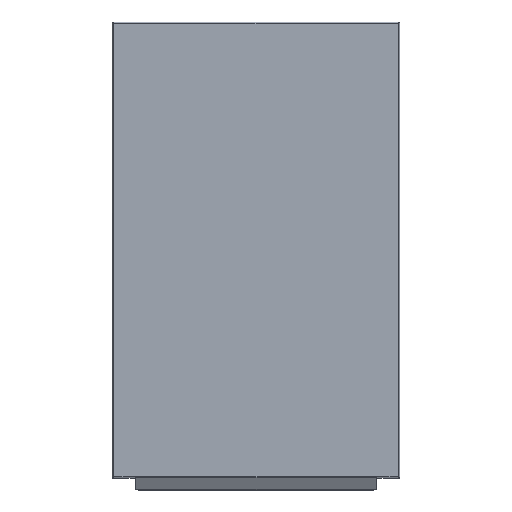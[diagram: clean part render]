
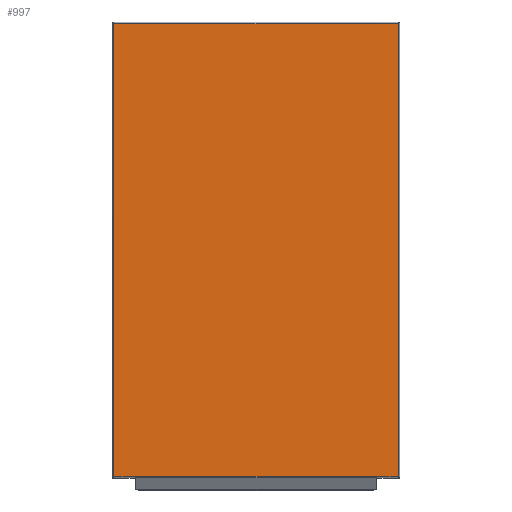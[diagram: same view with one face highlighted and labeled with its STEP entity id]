
A CAD part, top view. The second image highlights one B-rep face of the part: STEP entity #997.
In plain terms, the highlighted planar face has unit normal (0, 0, 1).
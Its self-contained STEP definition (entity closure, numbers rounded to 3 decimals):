
#47=PLANE('',#1093);
#101=FACE_OUTER_BOUND('',#159,.T.);
#159=EDGE_LOOP('',(#825,#826,#827,#828,#829,#830,#831,#832));
#252=LINE('',#1635,#356);
#253=LINE('',#1641,#357);
#254=LINE('',#1646,#358);
#255=LINE('',#1649,#359);
#256=LINE('',#1651,#360);
#257=LINE('',#1653,#361);
#258=LINE('',#1655,#362);
#259=LINE('',#1656,#363);
#356=VECTOR('',#1326,10.);
#357=VECTOR('',#1335,10.);
#358=VECTOR('',#1340,10.);
#359=VECTOR('',#1345,10.);
#360=VECTOR('',#1348,10.);
#361=VECTOR('',#1351,10.);
#362=VECTOR('',#1352,10.);
#363=VECTOR('',#1353,10.);
#438=VERTEX_POINT('',#1489);
#448=VERTEX_POINT('',#1513);
#482=VERTEX_POINT('',#1633);
#483=VERTEX_POINT('',#1634);
#484=VERTEX_POINT('',#1639);
#485=VERTEX_POINT('',#1643);
#486=VERTEX_POINT('',#1645);
#487=VERTEX_POINT('',#1654);
#603=EDGE_CURVE('',#482,#483,#252,.T.);
#607=EDGE_CURVE('',#484,#482,#253,.T.);
#609=EDGE_CURVE('',#485,#486,#254,.T.);
#611=EDGE_CURVE('',#448,#485,#255,.T.);
#612=EDGE_CURVE('',#486,#484,#256,.T.);
#613=EDGE_CURVE('',#448,#438,#257,.T.);
#614=EDGE_CURVE('',#438,#487,#258,.T.);
#615=EDGE_CURVE('',#487,#483,#259,.T.);
#825=ORIENTED_EDGE('',*,*,#603,.F.);
#826=ORIENTED_EDGE('',*,*,#607,.F.);
#827=ORIENTED_EDGE('',*,*,#612,.F.);
#828=ORIENTED_EDGE('',*,*,#609,.F.);
#829=ORIENTED_EDGE('',*,*,#611,.F.);
#830=ORIENTED_EDGE('',*,*,#613,.T.);
#831=ORIENTED_EDGE('',*,*,#614,.T.);
#832=ORIENTED_EDGE('',*,*,#615,.T.);
#997=ADVANCED_FACE('',(#101),#47,.T.);
#1093=AXIS2_PLACEMENT_3D('',#1652,#1349,#1350);
#1326=DIRECTION('',(-1.,0.,0.));
#1335=DIRECTION('',(0.,-1.,0.));
#1340=DIRECTION('',(0.,1.,0.));
#1345=DIRECTION('',(-1.,0.,0.));
#1348=DIRECTION('',(1.,0.,0.));
#1349=DIRECTION('center_axis',(0.,0.,1.));
#1350=DIRECTION('ref_axis',(-1.,0.,0.));
#1351=DIRECTION('',(1.,0.,0.));
#1352=DIRECTION('',(1.,0.,0.));
#1353=DIRECTION('',(1.,0.,0.));
#1489=CARTESIAN_POINT('',(30.5,2.,30.5));
#1513=CARTESIAN_POINT('',(29.5,2.,30.5));
#1633=CARTESIAN_POINT('',(368.,2.,30.5));
#1634=CARTESIAN_POINT('',(340.5,2.,30.5));
#1635=CARTESIAN_POINT('',(277.5,2.,30.5));
#1639=CARTESIAN_POINT('',(368.,585.5,30.5));
#1641=CARTESIAN_POINT('',(368.,440.625,30.5));
#1643=CARTESIAN_POINT('',(2.,2.,30.5));
#1645=CARTESIAN_POINT('',(2.,585.5,30.5));
#1646=CARTESIAN_POINT('',(2.,146.875,30.5));
#1649=CARTESIAN_POINT('',(277.5,2.,30.5));
#1651=CARTESIAN_POINT('',(92.5,585.5,30.5));
#1652=CARTESIAN_POINT('Origin',(185.,293.75,30.5));
#1653=CARTESIAN_POINT('',(185.,2.,30.5));
#1654=CARTESIAN_POINT('',(339.5,2.,30.5));
#1655=CARTESIAN_POINT('',(185.,2.,30.5));
#1656=CARTESIAN_POINT('',(185.,2.,30.5));
